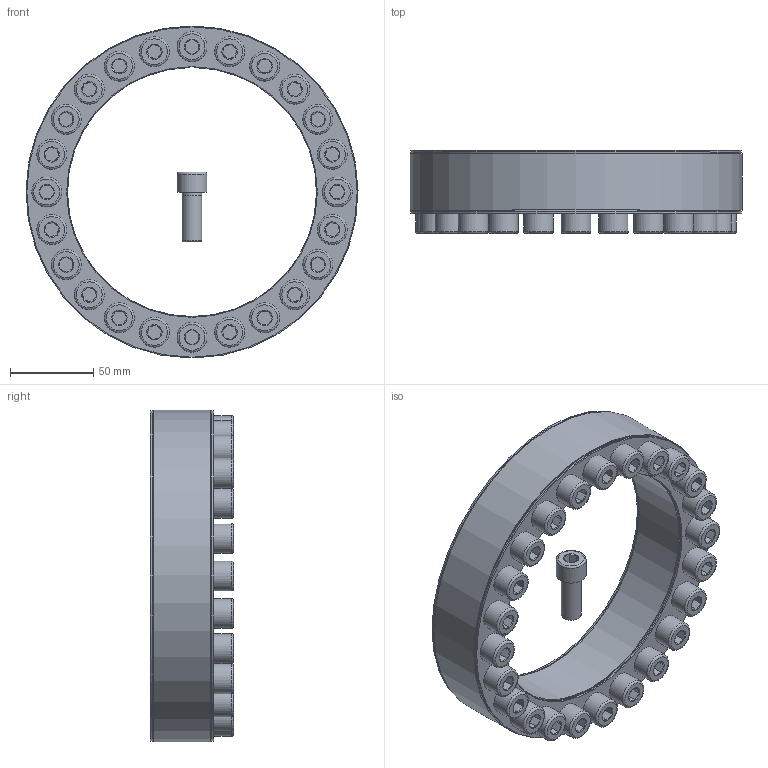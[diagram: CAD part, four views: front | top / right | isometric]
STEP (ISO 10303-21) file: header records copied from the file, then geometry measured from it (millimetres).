
FILE_DESCRIPTION( ( 'Unknown' ), '1' );
FILE_NAME( 'C:/Dokumente und Einstellungen/Sven/Desktop/homepage/cad - homepage/KBS40/KBS 40 - 150 x 200.stp', 'Unknown', ( 'Unknown' ), ( 'Unknown' ), 'XStep 1.0', 'Unknown', ' ' );
FILE_SCHEMA( ( 'automotive_design' ) );
Length unit declared in the file: millimetre
Products named in the file (26): Assem1; KBS 40 150x200; ISO 4762 M12x30; ISO 4762 M12x30-oa0; ISO 4762 M12x30-oa1; ISO 4762 M12x30-oa2; ISO 4762 M12x30-oa3; ISO 4762 M12x30-oa4; ISO 4762 M12x30-oa5; ISO 4762 M12x30-oa6; ISO 4762 M12x30-oa7; ISO 4762 M12x30-oa8; ISO 4762 M12x30-oa9; ISO 4762 M12x30-oa10; ISO 4762 M12x30-oa11; ISO 4762 M12x30-oa12; ISO 4762 M12x30-oa13; ISO 4762 M12x30-oa14; ISO 4762 M12x30-oa15; ISO 4762 M12x30-oa16; ISO 4762 M12x30-oa17; ISO 4762 M12x30-oa18; ISO 4762 M12x30-oa19; ISO 4762 M12x30-oa20; ISO 4762 M12x30-oa21; ISO 4762 M12x30-oa22
Bounding box: 199.99 x 50 x 199.99 mm (x, y, z)
Volume: 1125040.4 mm3; surface area: 316493.6 mm2
Topology: 50 solids, 50 shells, 1308 faces, 2396 edges, 1380 vertices
Faces by surface type: plane 616, cone 344, cylinder 252, torus 96
Full cylindrical faces by diameter (mm): 11 x48, 12 x144, 18 x48, 151 x4, 199 x4
Entity records: 15879 total; most frequent: CARTESIAN_POINT 3372, DIRECTION 2640, ORIENTED_EDGE 1896, AXIS2_PLACEMENT_3D 1156, EDGE_LOOP 1000, EDGE_CURVE 948, FACE_OUTER_BOUND 826, ADVANCED_FACE 654
